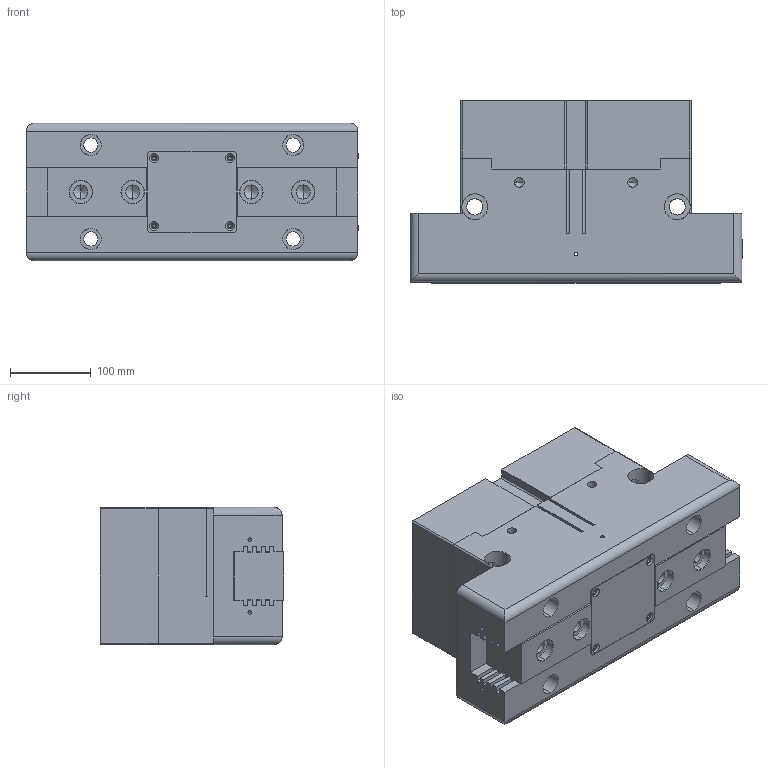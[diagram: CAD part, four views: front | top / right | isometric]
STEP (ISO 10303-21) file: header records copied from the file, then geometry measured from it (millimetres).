
FILE_DESCRIPTION (( 'STEP AP214' ), '1' );
FILE_NAME ('TWN-380A-2-IS.STEP', '2019-12-10T10:31:54', ( '' ), ( '' ), 'SwSTEP 2.0', 'SolidWorks 2016', '' );
FILE_SCHEMA (( 'AUTOMOTIVE_DESIGN' ));
Length unit declared in the file: millimetre
Products named in the file (5): TWN-380A-2-IS; TWN-380A-2-IS-03; TWN-380A-2-IS-04; TWN-380A-2-IS-01; TWN-380A-2-IS-02
Assembly tree (5 placements, depth 2):
  TWN-380A-2-IS
    TWN-380A-2-IS-01
    TWN-380A-2-IS-03
    TWN-380A-2-IS-02  x2
    TWN-380A-2-IS-04
Bounding box: 410 x 226.5 x 170 mm (x, y, z)
Volume: 11780446.9 mm3; surface area: 817139 mm2
Topology: 5 solids, 8 shells, 452 faces, 1220 edges, 762 vertices
Faces by surface type: plane 194, cylinder 178, cone 80
Entity records: 13950 total; most frequent: CARTESIAN_POINT 2948, DIRECTION 2122, ORIENTED_EDGE 2000, EDGE_CURVE 1000, AXIS2_PLACEMENT_3D 754, VERTEX_POINT 660, VECTOR 614, LINE 614
